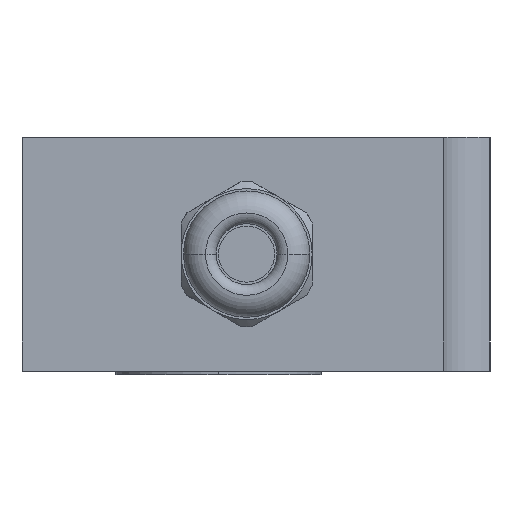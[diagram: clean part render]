
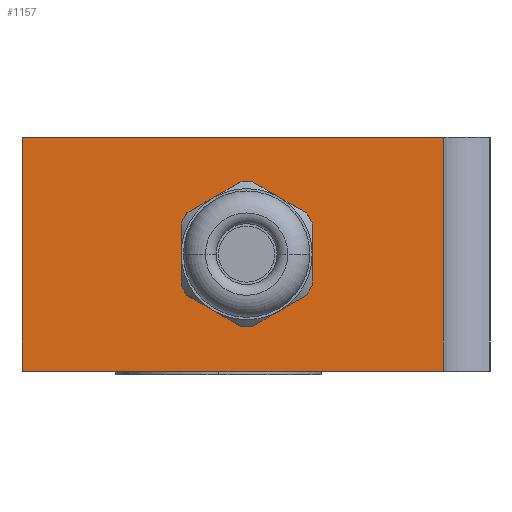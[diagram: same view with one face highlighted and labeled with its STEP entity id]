
A CAD part, left-side view. The second image highlights one B-rep face of the part: STEP entity #1157.
In plain terms, the highlighted planar face has unit normal (-1, 0, 0).
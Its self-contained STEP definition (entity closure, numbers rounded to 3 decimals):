
#45=DIRECTION('',(0.,-1.,0.));
#46=VECTOR('',#45,45.);
#47=CARTESIAN_POINT('',(-77.,25.,-12.5));
#48=LINE('',#47,#46);
#298=DIRECTION('',(0.,0.,1.));
#299=VECTOR('',#298,25.);
#300=CARTESIAN_POINT('',(-77.,-20.,-12.5));
#301=LINE('',#300,#299);
#302=DIRECTION('',(0.,0.,1.));
#303=VECTOR('',#302,25.);
#304=CARTESIAN_POINT('',(-77.,25.,-12.5));
#305=LINE('',#304,#303);
#306=CARTESIAN_POINT('',(-77.,1.,0.));
#307=DIRECTION('',(1.,0.,0.));
#308=DIRECTION('',(0.,1.,0.));
#309=AXIS2_PLACEMENT_3D('',#306,#307,#308);
#311=CARTESIAN_POINT('',(-77.,1.,0.));
#312=DIRECTION('',(1.,0.,0.));
#313=DIRECTION('',(0.,-1.,0.));
#314=AXIS2_PLACEMENT_3D('',#311,#312,#313);
#413=DIRECTION('',(0.,-1.,0.));
#414=VECTOR('',#413,45.);
#415=CARTESIAN_POINT('',(-77.,25.,12.5));
#416=LINE('',#415,#414);
#582=CARTESIAN_POINT('',(-77.,25.,-12.5));
#583=CARTESIAN_POINT('',(-77.,25.,12.5));
#584=VERTEX_POINT('',#582);
#585=VERTEX_POINT('',#583);
#614=CARTESIAN_POINT('',(-77.,-20.,-12.5));
#615=CARTESIAN_POINT('',(-77.,-20.,12.5));
#616=VERTEX_POINT('',#614);
#617=VERTEX_POINT('',#615);
#638=CARTESIAN_POINT('',(-77.,5.5,0.));
#639=CARTESIAN_POINT('',(-77.,-3.5,0.));
#640=VERTEX_POINT('',#638);
#641=VERTEX_POINT('',#639);
#1139=CARTESIAN_POINT('',(-77.,25.,-12.5));
#1140=DIRECTION('',(-1.,0.,0.));
#1141=DIRECTION('',(0.,-1.,0.));
#1142=AXIS2_PLACEMENT_3D('',#1139,#1140,#1141);
#1143=PLANE('',#1142);
#1145=ORIENTED_EDGE('',*,*,#1144,.F.);
#1146=ORIENTED_EDGE('',*,*,#745,.F.);
#1148=ORIENTED_EDGE('',*,*,#1147,.T.);
#1150=ORIENTED_EDGE('',*,*,#1149,.T.);
#1151=EDGE_LOOP('',(#1145,#1146,#1148,#1150));
#1152=FACE_OUTER_BOUND('',#1151,.F.);
#1153=ORIENTED_EDGE('',*,*,#1115,.F.);
#1154=ORIENTED_EDGE('',*,*,#1132,.F.);
#1155=EDGE_LOOP('',(#1153,#1154));
#1156=FACE_BOUND('',#1155,.F.);
#1157=ADVANCED_FACE('',(#1152,#1156),#1143,.T.);
#310=CIRCLE('',#309,4.5);
#315=CIRCLE('',#314,4.5);
#745=EDGE_CURVE('',#584,#616,#48,.T.);
#1115=EDGE_CURVE('',#640,#641,#310,.T.);
#1132=EDGE_CURVE('',#641,#640,#315,.T.);
#1144=EDGE_CURVE('',#616,#617,#301,.T.);
#1147=EDGE_CURVE('',#584,#585,#305,.T.);
#1149=EDGE_CURVE('',#585,#617,#416,.T.);
